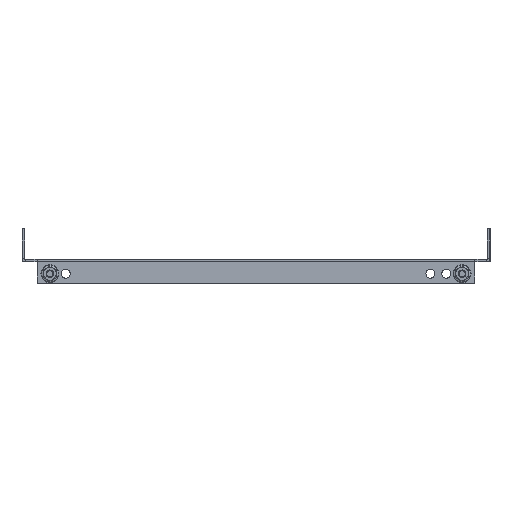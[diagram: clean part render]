
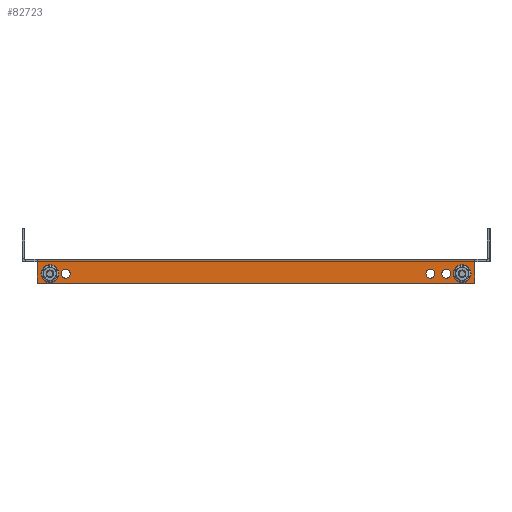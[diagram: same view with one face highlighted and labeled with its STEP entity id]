
A CAD part, left-side view. The second image highlights one B-rep face of the part: STEP entity #82723.
In plain terms, the highlighted planar face has unit normal (-1, 0, 0).
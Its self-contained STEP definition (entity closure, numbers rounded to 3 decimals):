
#61942 = VERTEX_POINT('',#61943);
#61943 = CARTESIAN_POINT('',(-450.,172.5,2.));
#61949 = EDGE_CURVE('',#61950,#61942,#61952,.T.);
#61950 = VERTEX_POINT('',#61951);
#61951 = CARTESIAN_POINT('',(-450.,-172.5,2.));
#61952 = LINE('',#61953,#61954);
#61953 = CARTESIAN_POINT('',(-450.,-182.5,2.));
#61954 = VECTOR('',#61955,1.);
#61955 = DIRECTION('',(0.,1.,-0.));
#82602 = VERTEX_POINT('',#82603);
#82603 = CARTESIAN_POINT('',(-450.,-172.5,-0.6));
#82618 = EDGE_CURVE('',#82602,#61950,#82619,.T.);
#82619 = LINE('',#82620,#82621);
#82620 = CARTESIAN_POINT('',(-450.,-172.5,-0.6));
#82621 = VECTOR('',#82622,1.);
#82622 = DIRECTION('',(0.,-0.,1.));
#82642 = VERTEX_POINT('',#82643);
#82643 = CARTESIAN_POINT('',(-450.,172.5,-0.6));
#82649 = EDGE_CURVE('',#82642,#61942,#82650,.T.);
#82650 = LINE('',#82651,#82652);
#82651 = CARTESIAN_POINT('',(-450.,172.5,0.));
#82652 = VECTOR('',#82653,1.);
#82653 = DIRECTION('',(0.,0.,1.));
#82665 = EDGE_CURVE('',#82666,#82642,#82668,.T.);
#82666 = VERTEX_POINT('',#82667);
#82667 = CARTESIAN_POINT('',(-450.,172.5,-17.));
#82668 = LINE('',#82669,#82670);
#82669 = CARTESIAN_POINT('',(-450.,172.5,0.));
#82670 = VECTOR('',#82671,1.);
#82671 = DIRECTION('',(0.,0.,1.));
#82705 = EDGE_CURVE('',#82602,#82706,#82708,.T.);
#82706 = VERTEX_POINT('',#82707);
#82707 = CARTESIAN_POINT('',(-450.,-172.5,-17.));
#82708 = LINE('',#82709,#82710);
#82709 = CARTESIAN_POINT('',(-450.,-172.5,-17.));
#82710 = VECTOR('',#82711,1.);
#82711 = DIRECTION('',(0.,0.,-1.));
#82723 = ADVANCED_FACE('',(#82724,#82735,#82755,#82775,#82786,#82797),
  #82810,.T.);
#82724 = FACE_BOUND('',#82725,.T.);
#82725 = EDGE_LOOP('',(#82726));
#82726 = ORIENTED_EDGE('',*,*,#82727,.T.);
#82727 = EDGE_CURVE('',#82728,#82728,#82730,.T.);
#82728 = VERTEX_POINT('',#82729);
#82729 = CARTESIAN_POINT('',(-450.,-137.5,-13.));
#82730 = CIRCLE('',#82731,3.5);
#82731 = AXIS2_PLACEMENT_3D('',#82732,#82733,#82734);
#82732 = CARTESIAN_POINT('',(-450.,-137.5,-9.5));
#82733 = DIRECTION('',(1.,0.,0.));
#82734 = DIRECTION('',(0.,-0.,-1.));
#82735 = FACE_BOUND('',#82736,.T.);
#82736 = EDGE_LOOP('',(#82737,#82748));
#82737 = ORIENTED_EDGE('',*,*,#82738,.F.);
#82738 = EDGE_CURVE('',#82739,#82741,#82743,.T.);
#82739 = VERTEX_POINT('',#82740);
#82740 = CARTESIAN_POINT('',(-450.,-162.5,-13.));
#82741 = VERTEX_POINT('',#82742);
#82742 = CARTESIAN_POINT('',(-450.,-162.5,-6.));
#82743 = CIRCLE('',#82744,3.5);
#82744 = AXIS2_PLACEMENT_3D('',#82745,#82746,#82747);
#82745 = CARTESIAN_POINT('',(-450.,-162.5,-9.5));
#82746 = DIRECTION('',(-1.,0.,0.));
#82747 = DIRECTION('',(0.,0.,-1.));
#82748 = ORIENTED_EDGE('',*,*,#82749,.F.);
#82749 = EDGE_CURVE('',#82741,#82739,#82750,.T.);
#82750 = CIRCLE('',#82751,3.5);
#82751 = AXIS2_PLACEMENT_3D('',#82752,#82753,#82754);
#82752 = CARTESIAN_POINT('',(-450.,-162.5,-9.5));
#82753 = DIRECTION('',(-1.,0.,0.));
#82754 = DIRECTION('',(0.,0.,-1.));
#82755 = FACE_BOUND('',#82756,.T.);
#82756 = EDGE_LOOP('',(#82757,#82768));
#82757 = ORIENTED_EDGE('',*,*,#82758,.F.);
#82758 = EDGE_CURVE('',#82759,#82761,#82763,.T.);
#82759 = VERTEX_POINT('',#82760);
#82760 = CARTESIAN_POINT('',(-450.,-150.,-13.));
#82761 = VERTEX_POINT('',#82762);
#82762 = CARTESIAN_POINT('',(-450.,-150.,-6.));
#82763 = CIRCLE('',#82764,3.5);
#82764 = AXIS2_PLACEMENT_3D('',#82765,#82766,#82767);
#82765 = CARTESIAN_POINT('',(-450.,-150.,-9.5));
#82766 = DIRECTION('',(-1.,0.,0.));
#82767 = DIRECTION('',(0.,0.,-1.));
#82768 = ORIENTED_EDGE('',*,*,#82769,.F.);
#82769 = EDGE_CURVE('',#82761,#82759,#82770,.T.);
#82770 = CIRCLE('',#82771,3.5);
#82771 = AXIS2_PLACEMENT_3D('',#82772,#82773,#82774);
#82772 = CARTESIAN_POINT('',(-450.,-150.,-9.5));
#82773 = DIRECTION('',(-1.,0.,0.));
#82774 = DIRECTION('',(0.,0.,-1.));
#82775 = FACE_BOUND('',#82776,.T.);
#82776 = EDGE_LOOP('',(#82777));
#82777 = ORIENTED_EDGE('',*,*,#82778,.F.);
#82778 = EDGE_CURVE('',#82779,#82779,#82781,.T.);
#82779 = VERTEX_POINT('',#82780);
#82780 = CARTESIAN_POINT('',(-450.,150.,-6.));
#82781 = CIRCLE('',#82782,3.5);
#82782 = AXIS2_PLACEMENT_3D('',#82783,#82784,#82785);
#82783 = CARTESIAN_POINT('',(-450.,150.,-9.5));
#82784 = DIRECTION('',(-1.,0.,0.));
#82785 = DIRECTION('',(0.,0.,1.));
#82786 = FACE_BOUND('',#82787,.T.);
#82787 = EDGE_LOOP('',(#82788));
#82788 = ORIENTED_EDGE('',*,*,#82789,.F.);
#82789 = EDGE_CURVE('',#82790,#82790,#82792,.T.);
#82790 = VERTEX_POINT('',#82791);
#82791 = CARTESIAN_POINT('',(-450.,162.5,-6.));
#82792 = CIRCLE('',#82793,3.5);
#82793 = AXIS2_PLACEMENT_3D('',#82794,#82795,#82796);
#82794 = CARTESIAN_POINT('',(-450.,162.5,-9.5));
#82795 = DIRECTION('',(-1.,0.,0.));
#82796 = DIRECTION('',(0.,0.,1.));
#82797 = FACE_BOUND('',#82798,.T.);
#82798 = EDGE_LOOP('',(#82799,#82800,#82801,#82802,#82803,#82804));
#82799 = ORIENTED_EDGE('',*,*,#82705,.F.);
#82800 = ORIENTED_EDGE('',*,*,#82618,.T.);
#82801 = ORIENTED_EDGE('',*,*,#61949,.T.);
#82802 = ORIENTED_EDGE('',*,*,#82649,.F.);
#82803 = ORIENTED_EDGE('',*,*,#82665,.F.);
#82804 = ORIENTED_EDGE('',*,*,#82805,.F.);
#82805 = EDGE_CURVE('',#82706,#82666,#82806,.T.);
#82806 = LINE('',#82807,#82808);
#82807 = CARTESIAN_POINT('',(-450.,172.5,-17.));
#82808 = VECTOR('',#82809,1.);
#82809 = DIRECTION('',(0.,1.,-0.));
#82810 = PLANE('',#82811);
#82811 = AXIS2_PLACEMENT_3D('',#82812,#82813,#82814);
#82812 = CARTESIAN_POINT('',(-450.,172.5,0.));
#82813 = DIRECTION('',(-1.,0.,0.));
#82814 = DIRECTION('',(0.,0.,1.));
